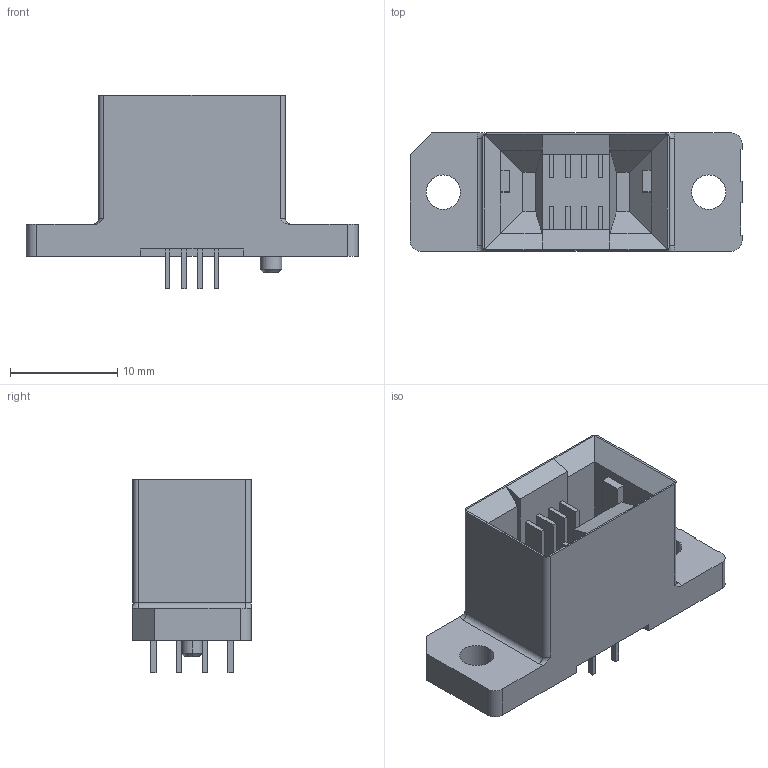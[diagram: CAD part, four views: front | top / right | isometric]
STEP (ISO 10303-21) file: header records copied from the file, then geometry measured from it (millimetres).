
FILE_DESCRIPTION(('Creo Elements/Direct Modeling STEP Export'),'2;1');
FILE_NAME('P3C792_FAS11-008.stp','2023-10-30T11:04:56',(''),(''),'Creo Elements/Direct Modeling STEP processor for AP214 (Solid Model)','Creo Elements/Direct Modeling 20.4A 18-Oct-2021 (C) Parametric Technology GmbH','');
FILE_SCHEMA(('AUTOMOTIVE_DESIGN { 1 0 10303 214 1 1 1 1 }'));
Length unit declared in the file: millimetre
Products named in the file (3): FAS11-016-70220.PRT; FAS11-016-70550.ASM; P3C792_FAS11-016.stp
Assembly tree (2 placements, depth 3):
  P3C792_FAS11-016.stp
    FAS11-016-70550.ASM
      FAS11-016-70220.PRT
Bounding box: 30.9 x 11 x 18 mm (x, y, z)
Volume: 1986.7 mm3; surface area: 2523.5 mm2
Topology: 1 solids, 1 shells, 160 faces, 418 edges, 270 vertices
Faces by surface type: plane 139, cylinder 15, torus 4, cone 2
Entity records: 4873 total; most frequent: CARTESIAN_POINT 874, ORIENTED_EDGE 836, DIRECTION 762, EDGE_CURVE 418, VECTOR 378, LINE 378, VERTEX_POINT 270, AXIS2_PLACEMENT_3D 192
